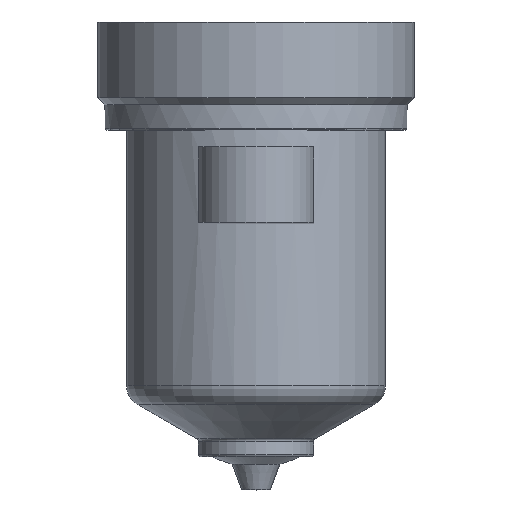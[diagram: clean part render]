
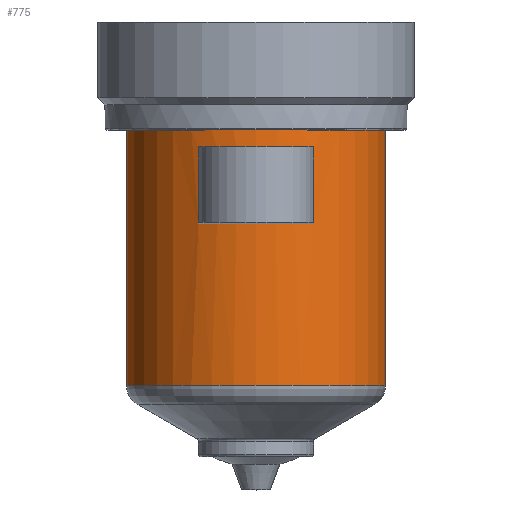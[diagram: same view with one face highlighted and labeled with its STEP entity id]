
A CAD part, top view. The second image highlights one B-rep face of the part: STEP entity #775.
In plain terms, the highlighted cylindrical face has radius 18 mm (diameter 36 mm), a partial arc.
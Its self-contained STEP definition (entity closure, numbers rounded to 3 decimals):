
#187=DIRECTION('',(0.,-1.,0.));
#188=VECTOR('',#187,35.506);
#189=CARTESIAN_POINT('',(18.,0.,0.));
#190=LINE('',#189,#188);
#191=CARTESIAN_POINT('',(0.,-35.506,0.));
#192=DIRECTION('',(0.,1.,0.));
#193=DIRECTION('',(-1.,0.,0.));
#194=AXIS2_PLACEMENT_3D('',#191,#192,#193);
#196=DIRECTION('',(0.,1.,0.));
#197=VECTOR('',#196,35.506);
#198=CARTESIAN_POINT('',(-18.,-35.506,0.));
#199=LINE('',#198,#197);
#200=CARTESIAN_POINT('',(0.,0.,0.));
#201=DIRECTION('',(0.,1.,0.));
#202=DIRECTION('',(-1.,0.,0.));
#203=AXIS2_PLACEMENT_3D('',#200,#201,#202);
#349=DIRECTION('',(0.,-1.,0.));
#350=VECTOR('',#349,10.5);
#351=CARTESIAN_POINT('',(-8.,-2.5,16.125));
#352=LINE('',#351,#350);
#353=CARTESIAN_POINT('',(0.,-13.,0.));
#354=DIRECTION('',(0.,1.,0.));
#355=DIRECTION('',(-0.444,0.,0.896));
#356=AXIS2_PLACEMENT_3D('',#353,#354,#355);
#379=CARTESIAN_POINT('',(0.,-2.5,0.));
#380=DIRECTION('',(0.,-1.,0.));
#381=DIRECTION('',(0.444,0.,0.896));
#382=AXIS2_PLACEMENT_3D('',#379,#380,#381);
#397=DIRECTION('',(0.,-1.,0.));
#398=VECTOR('',#397,10.5);
#399=CARTESIAN_POINT('',(8.,-2.5,16.125));
#400=LINE('',#399,#398);
#458=CARTESIAN_POINT('',(-18.,0.,0.));
#459=CARTESIAN_POINT('',(18.,0.,0.));
#460=VERTEX_POINT('',#458);
#461=VERTEX_POINT('',#459);
#470=CARTESIAN_POINT('',(-8.,-2.5,16.125));
#471=VERTEX_POINT('',#470);
#472=CARTESIAN_POINT('',(8.,-2.5,16.125));
#473=VERTEX_POINT('',#472);
#506=CARTESIAN_POINT('',(18.,-35.506,0.));
#507=VERTEX_POINT('',#506);
#516=CARTESIAN_POINT('',(-18.,-35.506,0.));
#517=VERTEX_POINT('',#516);
#534=CARTESIAN_POINT('',(-8.,-13.,16.125));
#535=CARTESIAN_POINT('',(8.,-13.,16.125));
#536=VERTEX_POINT('',#534);
#537=VERTEX_POINT('',#535);
#753=CARTESIAN_POINT('',(0.,16.4,0.));
#754=DIRECTION('',(0.,-1.,0.));
#755=DIRECTION('',(-1.,0.,0.));
#756=AXIS2_PLACEMENT_3D('',#753,#754,#755);
#757=CYLINDRICAL_SURFACE('',#756,18.);
#758=ORIENTED_EDGE('',*,*,#747,.T.);
#760=ORIENTED_EDGE('',*,*,#759,.F.);
#761=ORIENTED_EDGE('',*,*,#743,.T.);
#762=ORIENTED_EDGE('',*,*,#733,.T.);
#763=EDGE_LOOP('',(#758,#760,#761,#762));
#764=FACE_OUTER_BOUND('',#763,.F.);
#766=ORIENTED_EDGE('',*,*,#765,.T.);
#768=ORIENTED_EDGE('',*,*,#767,.T.);
#770=ORIENTED_EDGE('',*,*,#769,.F.);
#772=ORIENTED_EDGE('',*,*,#771,.T.);
#773=EDGE_LOOP('',(#766,#768,#770,#772));
#774=FACE_BOUND('',#773,.F.);
#775=ADVANCED_FACE('',(#764,#774),#757,.T.);
#195=CIRCLE('',#194,18.);
#204=CIRCLE('',#203,18.);
#357=CIRCLE('',#356,18.);
#383=CIRCLE('',#382,18.);
#733=EDGE_CURVE('',#460,#461,#204,.T.);
#743=EDGE_CURVE('',#517,#460,#199,.T.);
#747=EDGE_CURVE('',#461,#507,#190,.T.);
#759=EDGE_CURVE('',#517,#507,#195,.T.);
#765=EDGE_CURVE('',#471,#536,#352,.T.);
#767=EDGE_CURVE('',#536,#537,#357,.T.);
#769=EDGE_CURVE('',#473,#537,#400,.T.);
#771=EDGE_CURVE('',#473,#471,#383,.T.);
